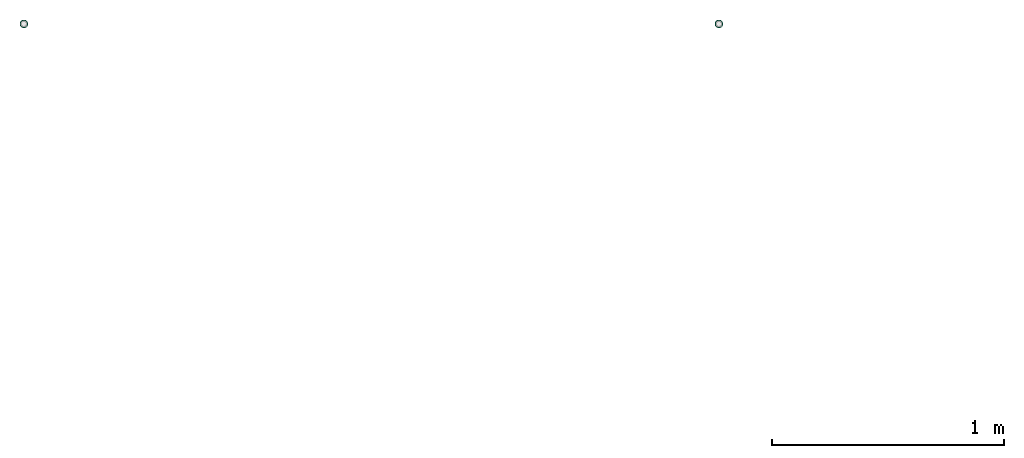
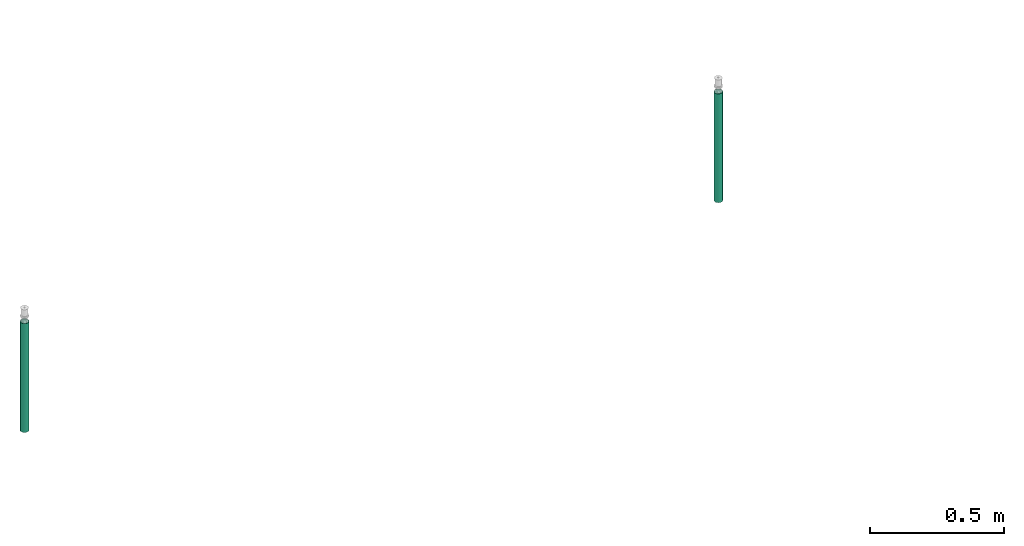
# One storey, part 42 of 44: 2 flow segments.
"""IFC2X3 building model written with IfcOpenShell, lengths in millimetres."""

import ifcopenshell
import ifcopenshell.guid

model = None  # the IFC model being written
_history = None  # IfcOwnerHistory: only IFC2X3 demands one
_inside = {}  # id of a spatial element -> (the spatial element, [elements in it])
_under = {}  # id of a project, library or spatial element -> (it, [spatial elements below it])
_declared = {}  # id of a project -> (the project, [libraries it declares])
_typed = {}  # id of a type object -> (the type object, [elements of that type])
_made_of = {}  # id of a material, layer set ... -> (it, [elements and type objects made of it])


def new_model(schema):
    """Start an empty IFC model of exactly this schema.

    Asked for "IFC4X3", IfcOpenShell would pick the latest addendum, in which some entities
    have other attributes; the version numbers below select the first issue.
    IFC2X3 requires an IfcOwnerHistory on every rooted entity: one is made here for all.
    """
    global model, _history
    if schema == "IFC4X3":
        model = ifcopenshell.file(schema_version=(4, 3, 0, 0))
    else:
        model = ifcopenshell.file(schema=schema)
    _inside.clear()
    _under.clear()
    _declared.clear()
    _typed.clear()
    _made_of.clear()
    _history = None
    if model.schema == "IFC2X3":
        org = make("IfcOrganization", Name="unknown")
        user = make(
            "IfcPersonAndOrganization",
            ThePerson=make("IfcPerson", FamilyName="unknown"),
            TheOrganization=org,
        )
        app = make(
            "IfcApplication",
            ApplicationDeveloper=org,
            Version="unknown",
            ApplicationFullName="unknown",
            ApplicationIdentifier="unknown",
        )
        _history = make(
            "IfcOwnerHistory",
            OwningUser=user,
            OwningApplication=app,
            ChangeAction="ADDED",
            CreationDate=0,
        )
    return model


def make(cls, **values):
    """One entity of the class cls with the attributes given. An attribute that is None is left unset."""
    return model.create_entity(
        cls, **{name: value for name, value in values.items() if value is not None}
    )


def entity(cls, *values):
    """Any entity or typed value of the class cls, its attributes in the order of the schema. None: left unset."""
    e = model.create_entity(cls)
    for i, value in enumerate(values):
        if value is not None:
            e[i] = value
    return e


def rooted(cls, **values):
    """An entity with a GlobalId (a new one), such as an element, a storey or a relation."""
    return make(cls, GlobalId=ifcopenshell.guid.new(), OwnerHistory=_history, **values)


def si_unit(unit_type, name, prefix=None):
    """IfcSIUnit, for example si_unit("LENGTHUNIT", "METRE", prefix="MILLI")."""
    return make("IfcSIUnit", UnitType=unit_type, Prefix=prefix, Name=name)


def converted_unit(unit_type, name, factor, base, dimensions=None, offset=None):
    """IfcConversionBasedUnit, such as the inch: factor (a typed value) times the base unit."""
    return make(
        "IfcConversionBasedUnit"
        if offset is None
        else "IfcConversionBasedUnitWithOffset",
        ConversionOffset=offset,
        Dimensions=None
        if dimensions is None
        else entity("IfcDimensionalExponents", *dimensions),
        UnitType=unit_type,
        Name=name,
        ConversionFactor=make(
            "IfcMeasureWithUnit", ValueComponent=factor, UnitComponent=base
        ),
    )


def derived_unit(unit_type, elements):
    """IfcDerivedUnit: a product of units, each with its exponent."""
    return make(
        "IfcDerivedUnit",
        Elements=[
            make("IfcDerivedUnitElement", Unit=unit, Exponent=power)
            for unit, power in elements
        ],
        UnitType=unit_type,
    )


def assignment(units):
    """IfcUnitAssignment: the units of a project."""
    return None if units is None else make("IfcUnitAssignment", Units=units)


def point(xyz):
    """IfcCartesianPoint."""
    return None if xyz is None else make("IfcCartesianPoint", Coordinates=xyz)


def direction(xyz):
    """IfcDirection."""
    return None if xyz is None else make("IfcDirection", DirectionRatios=xyz)


def frame(location, z_axis=None, x_axis=None):
    """IfcAxis2Placement3D, a coordinate frame: its origin and axes. An axis left out is left unset."""
    return make(
        "IfcAxis2Placement3D",
        Location=point(location),
        Axis=direction(z_axis),
        RefDirection=direction(x_axis),
    )


def place(relative_to, where):
    """IfcLocalPlacement: puts the frame where relative to a parent placement (None: the world)."""
    return make(
        "IfcLocalPlacement", PlacementRelTo=relative_to, RelativePlacement=where
    )


def context(
    kind, dimensions, precision=None, world=None, true_north=None, identifier=None
):
    """IfcGeometricRepresentationContext, for example the 3D "Model" context."""
    return make(
        "IfcGeometricRepresentationContext",
        ContextIdentifier=identifier,
        ContextType=kind,
        CoordinateSpaceDimension=dimensions,
        Precision=precision,
        WorldCoordinateSystem=world,
        TrueNorth=true_north,
    )


def subcontext(parent, identifier, kind, view, scale=None):
    """IfcGeometricRepresentationSubContext, for example "Body" below "Model"."""
    return make(
        "IfcGeometricRepresentationSubContext",
        ContextIdentifier=identifier,
        ContextType=kind,
        ParentContext=parent,
        TargetScale=scale,
        TargetView=view,
    )


def project(units=None, contexts=None):
    """IfcProject with its units and contexts."""
    return rooted(
        "IfcProject",
        Name="project",
        RepresentationContexts=contexts,
        UnitsInContext=assignment(units),
    )


def spatial(cls, under=None, at=None, **own):
    """A site, building, storey or space (cls), placed at a placement, below another one or the project."""
    s = rooted(cls, ObjectPlacement=at, **own)
    if under is not None:
        _under.setdefault(under.id(), (under, []))[1].append(s)
    return s


def faces_of(points, faces, orient=None, outer=None):
    """IfcFace entities. A face is a list of loops; a loop is a list of indices into points, from 0.

    orient and outer hold one flag for each loop. By default every Orientation is true, the
    first loop of a face is its IfcFaceOuterBound and the others are IfcFaceBound.
    """
    made = []
    for i, loops in enumerate(faces):
        bounds = []
        for j, loop in enumerate(loops):
            is_outer = j == 0 if outer is None else outer[i][j]
            bounds.append(
                make(
                    "IfcFaceOuterBound" if is_outer else "IfcFaceBound",
                    Bound=make("IfcPolyLoop", Polygon=[points[k] for k in loop]),
                    Orientation=True if orient is None else orient[i][j],
                )
            )
        made.append(make("IfcFace", Bounds=bounds))
    return made


def faceted_brep(points, faces, orient=None, outer=None, voids=None):
    """IfcFacetedBrep: a solid bounded by flat faces; with voids (closed shells), ...WithVoids."""
    shared = [point(p) for p in points]
    hull = make("IfcClosedShell", CfsFaces=faces_of(shared, faces, orient, outer))
    if voids is None:
        return make("IfcFacetedBrep", Outer=hull)
    return make(
        "IfcFacetedBrepWithVoids",
        Outer=hull,
        Voids=[
            make(cls, CfsFaces=faces_of(shared, fs, o, b)) for cls, fs, o, b in voids
        ],
    )


def shape(context_of_items, identifier, shape_type, items):
    """IfcShapeRepresentation: the items that make up one representation, for example the "Body"."""
    return make(
        "IfcShapeRepresentation",
        ContextOfItems=context_of_items,
        RepresentationIdentifier=identifier,
        RepresentationType=shape_type,
        Items=items,
    )


def made_of(thing, what):
    """Note that an element or type object is made of a material, layer set ...; save() writes the relation."""
    if what is not None:
        _made_of.setdefault(what.id(), (what, []))[1].append(thing)
    return thing


def type_object(cls, material=None, **own):
    """A type object (cls), such as IfcWallType, which elements share."""
    return made_of(rooted(cls, **own), material)


def element(
    cls,
    number,
    at=None,
    inside=None,
    cuts=None,
    type_object=None,
    material=None,
    context=None,
    identifier="Body",
    shape_type=None,
    held_by="IfcProductDefinitionShape",
    body=None,
    shapes=None,
    **own,
):
    """One element of the class cls, such as IfcWall. Its Tag is "e" and its number.

    at: its placement. inside: the storey or other place that contains it. cuts: it is an
    opening in that element (IfcRelVoidsElement). A single representation is given by context,
    identifier, shape_type and body (its items); several are given by shapes. held_by: the class
    of the entity that holds the representations. save() writes the other relations.
    """
    e = rooted(cls, Tag="e%d" % number, ObjectPlacement=at, **own)
    if body is not None:
        shapes = [shape(context, identifier, shape_type, body)]
    if shapes is not None:
        e.Representation = make(held_by, Representations=shapes)
    if inside is not None:
        _inside.setdefault(inside.id(), (inside, []))[1].append(e)
    if cuts is not None:
        rooted(
            "IfcRelVoidsElement", RelatingBuildingElement=cuts, RelatedOpeningElement=e
        )
    if type_object is not None:
        _typed.setdefault(type_object.id(), (type_object, []))[1].append(e)
    return made_of(e, material)


def aggregate(whole, parts):
    """IfcRelAggregates: a whole, such as a stair, and the parts it consists of."""
    return rooted("IfcRelAggregates", RelatingObject=whole, RelatedObjects=parts)


def save(model, path):
    """Write the relations noted so far, then the file.

    IfcRelAggregates (storeys below a building ...), IfcRelContainedInSpatialStructure (elements
    in a storey), IfcRelDefinesByType, IfcRelAssociatesMaterial and IfcRelDeclares: one each for
    every whole, place, type object, material and project.
    """
    for whole, parts in _under.values():
        aggregate(whole, parts)
    for where, things in _inside.values():
        rooted(
            "IfcRelContainedInSpatialStructure",
            RelatedElements=things,
            RelatingStructure=where,
        )
    for kind, things in _typed.values():
        rooted("IfcRelDefinesByType", RelatedObjects=things, RelatingType=kind)
    for what, things in _made_of.values():
        rooted("IfcRelAssociatesMaterial", RelatedObjects=things, RelatingMaterial=what)
    for by, libraries in _declared.values():
        rooted("IfcRelDeclares", RelatingContext=by, RelatedDefinitions=libraries)
    model.write(path)


model = new_model("IFC2X3")

# Units and contexts
model_context = context("Model", 3, precision=0.01, world=frame((0.0, 4.29681676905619e-09, 0.0)), true_north=direction((4.01073788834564e-13, 1.0)))
plan_context = context("Plan", 3, precision=0.01, world=frame((0.0, 4.29681676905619e-09, 0.0)), true_north=direction((4.01073788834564e-13, 1.0)))
body_context = subcontext(model_context, "Body", "Model", "MODEL_VIEW")
ifc_project = project(units=[converted_unit("PLANEANGLEUNIT", "DEGREE", entity("IfcPositiveLengthMeasure", 0.0174532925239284), si_unit("PLANEANGLEUNIT", "RADIAN"), dimensions=[0, 0, 0, 0, 0, 0, 0]), si_unit("AREAUNIT", "SQUARE_METRE"), si_unit("LENGTHUNIT", "METRE", prefix="MILLI"), si_unit("MASSUNIT", "GRAM", prefix="KILO"), si_unit("POWERUNIT", "WATT"), si_unit("PRESSUREUNIT", "PASCAL"), si_unit("FORCEUNIT", "NEWTON", prefix="KILO"), si_unit("ELECTRICVOLTAGEUNIT", "VOLT"), si_unit("ELECTRICCURRENTUNIT", "AMPERE"), si_unit("THERMODYNAMICTEMPERATUREUNIT", "DEGREE_CELSIUS"), si_unit("TIMEUNIT", "SECOND"), si_unit("VOLUMEUNIT", "CUBIC_METRE"), derived_unit("LINEARVELOCITYUNIT", [(si_unit("LENGTHUNIT", "METRE"), 1), (si_unit("TIMEUNIT", "SECOND"), -1)]), derived_unit("VOLUMETRICFLOWRATEUNIT", [(si_unit("VOLUMEUNIT", "CUBIC_METRE"), 1), (si_unit("TIMEUNIT", "SECOND"), -1)]), derived_unit("THERMALTRANSMITTANCEUNIT", [(si_unit("POWERUNIT", "WATT"), 1), (si_unit("THERMODYNAMICTEMPERATUREUNIT", "KELVIN"), -1), (si_unit("AREAUNIT", "SQUARE_METRE"), -1)]), derived_unit("SOUNDPRESSUREUNIT", [(si_unit("PRESSUREUNIT", "PASCAL"), 1)])], contexts=[model_context, plan_context])

# Site, building, storey
site_placement = place(None, frame((0.0, -4.29681676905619e-09, 0.0), z_axis=(0.0, 0.0, 1.0), x_axis=(1.0, 0.0, 0.0)))
site = spatial("IfcSite", under=ifc_project, at=site_placement, CompositionType="ELEMENT")
building_placement = place(site_placement, frame((0.0, 4.29681676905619e-09, 0.0), z_axis=(0.0, 0.0, 1.0), x_axis=(1.0, 0.0, 0.0)))
building = spatial("IfcBuilding", under=site, at=building_placement, Name="mc-building", CompositionType="ELEMENT")
storey_placement = place(building_placement, frame((0.0, 0.0, 207370.0), z_axis=(0.0, 0.0, 1.0), x_axis=(1.0, 0.0, 0.0)))
storey = spatial("IfcBuildingStorey", under=building, at=storey_placement, Name="Nivå E", CompositionType="ELEMENT", Elevation=207370.0)

# Flow segments
pipe_segment_type = type_object("IfcPipeSegmentType", Name="Stålrør normaltykke", PredefinedType="RIGIDSEGMENT")
flow_segment_1_placement = place(storey_placement, frame((521500.0, 459009.83177, 1961.79999999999), z_axis=(1.0, 0.0, 0.0), x_axis=(0.0, 0.0, 1.0)))
element("IfcFlowSegment", 1, at=flow_segment_1_placement, inside=storey, type_object=pipe_segment_type, Name="Stålrør normaltykke", context=body_context, shape_type="Brep", body=[
    faceted_brep([(568.200000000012, 14.6736355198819, -2.58735784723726), (568.200000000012, 14.9, 0.0), (1065.8, 14.9, 0.0), (1065.8, 14.6736355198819, -2.58735784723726), (568.200000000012, 14.00142004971, -5.09610013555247), (1065.8, 14.00142004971, -5.09610013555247), (568.200000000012, 12.9037785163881, -7.45), (1065.8, 12.9037785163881, -7.45000000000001), (568.200000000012, 11.4140622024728, -9.57753538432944), (1065.8, 11.4140622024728, -9.57753538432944), (568.200000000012, 9.57753538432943, -11.4140622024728), (1065.8, 9.57753538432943, -11.4140622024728), (568.200000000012, 7.45, -12.9037785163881), (1065.8, 7.45, -12.9037785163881), (568.200000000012, 5.09610013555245, -14.00142004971), (1065.8, 5.09610013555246, -14.00142004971), (568.200000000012, 2.58735784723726, -14.6736355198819), (1065.8, 2.58735784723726, -14.6736355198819), (568.200000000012, -2.73708559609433e-15, -14.9), (1065.8, -2.73708559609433e-15, -14.9), (568.200000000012, -2.58735784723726, -14.6736355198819), (1065.8, -2.58735784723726, -14.6736355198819), (568.200000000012, -5.09610013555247, -14.00142004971), (1065.8, -5.09610013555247, -14.00142004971), (568.200000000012, -7.45, -12.9037785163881), (1065.8, -7.45000000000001, -12.9037785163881), (568.200000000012, -9.57753538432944, -11.4140622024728), (1065.8, -9.57753538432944, -11.4140622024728), (568.200000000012, -11.4140622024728, -9.57753538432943), (1065.8, -11.4140622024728, -9.57753538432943), (568.200000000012, -12.9037785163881, -7.44999999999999), (1065.8, -12.9037785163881, -7.44999999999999), (568.200000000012, -14.00142004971, -5.09610013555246), (1065.8, -14.00142004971, -5.09610013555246), (568.200000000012, -14.6736355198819, -2.58735784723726), (1065.8, -14.6736355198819, -2.58735784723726), (568.200000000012, -14.9, 1.82472373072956e-15), (1065.8, -14.9, 1.82472373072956e-15), (568.200000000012, -14.6736355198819, 2.58735784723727), (1065.8, -14.6736355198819, 2.58735784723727), (568.200000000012, -14.00142004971, 5.09610013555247), (1065.8, -14.00142004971, 5.09610013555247), (568.200000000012, -12.9037785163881, 7.45), (1065.8, -12.9037785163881, 7.45), (568.200000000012, -11.4140622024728, 9.57753538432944), (1065.8, -11.4140622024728, 9.57753538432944), (568.200000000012, -9.57753538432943, 11.4140622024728), (1065.8, -9.57753538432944, 11.4140622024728), (568.200000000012, -7.45, 12.9037785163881), (1065.8, -7.45, 12.9037785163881), (568.200000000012, -5.09610013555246, 14.00142004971), (1065.8, -5.09610013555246, 14.00142004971), (568.200000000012, -2.58735784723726, 14.6736355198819), (1065.8, -2.58735784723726, 14.6736355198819), (568.200000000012, 9.12361865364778e-16, 14.9), (1065.8, 9.12361865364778e-16, 14.9), (568.200000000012, 2.58735784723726, 14.6736355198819), (1065.8, 2.58735784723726, 14.6736355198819), (568.200000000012, 5.09610013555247, 14.00142004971), (1065.8, 5.09610013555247, 14.00142004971), (568.200000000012, 7.45, 12.9037785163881), (1065.8, 7.45, 12.9037785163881), (568.200000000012, 9.57753538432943, 11.4140622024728), (1065.8, 9.57753538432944, 11.4140622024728), (568.200000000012, 11.4140622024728, 9.57753538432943), (1065.8, 11.4140622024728, 9.57753538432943), (568.200000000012, 12.9037785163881, 7.45), (1065.8, 12.9037785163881, 7.45), (568.200000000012, 14.00142004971, 5.09610013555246), (1065.8, 14.00142004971, 5.09610013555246), (568.200000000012, 14.6736355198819, 2.58735784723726), (1065.8, 14.6736355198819, 2.58735784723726), (568.200000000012, 16.9, 0.0), (568.200000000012, 16.6432510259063, -2.93465420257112), (1065.8, 16.6432510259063, -2.93465420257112), (1065.8, 16.9, 0.0), (568.200000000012, 16.6432510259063, 2.93465420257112), (1065.8, 16.6432510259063, 2.93465420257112), (568.200000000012, 15.8808052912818, 5.7801404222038), (1065.8, 15.8808052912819, 5.7801404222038), (568.200000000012, 14.635829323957, 8.45), (1065.8, 14.635829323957, 8.45), (568.200000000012, 12.9461510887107, 10.8631106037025), (1065.8, 12.9461510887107, 10.8631106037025), (568.200000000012, 10.8631106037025, 12.9461510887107), (1065.8, 10.8631106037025, 12.9461510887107), (568.200000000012, 8.45, 14.635829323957), (1065.8, 8.45, 14.635829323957), (568.200000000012, 5.7801404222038, 15.8808052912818), (1065.8, 5.7801404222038, 15.8808052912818), (568.200000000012, 2.93465420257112, 16.6432510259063), (1065.8, 2.93465420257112, 16.6432510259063), (568.200000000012, 1.03482654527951e-15, 16.9), (1065.8, 1.03482654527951e-15, 16.9), (568.200000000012, -2.93465420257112, 16.6432510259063), (1065.8, -2.93465420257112, 16.6432510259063), (568.200000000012, -5.7801404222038, 15.8808052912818), (1065.8, -5.7801404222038, 15.8808052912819), (568.200000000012, -8.45, 14.635829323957), (1065.8, -8.45, 14.635829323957), (568.200000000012, -10.8631106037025, 12.9461510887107), (1065.8, -10.8631106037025, 12.9461510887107), (568.200000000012, -12.9461510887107, 10.8631106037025), (1065.8, -12.9461510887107, 10.8631106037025), (568.200000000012, -14.635829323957, 8.45), (1065.8, -14.635829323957, 8.45), (568.200000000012, -15.8808052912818, 5.7801404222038), (1065.8, -15.8808052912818, 5.7801404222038), (568.200000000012, -16.6432510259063, 2.93465420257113), (1065.8, -16.6432510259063, 2.93465420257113), (568.200000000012, -16.9, 2.06965309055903e-15), (1065.8, -16.9, 2.06965309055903e-15), (568.200000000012, -16.6432510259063, -2.93465420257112), (1065.8, -16.6432510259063, -2.93465420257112), (568.200000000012, -15.8808052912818, -5.7801404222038), (1065.8, -15.8808052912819, -5.7801404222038), (568.200000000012, -14.635829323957, -8.44999999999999), (1065.8, -14.635829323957, -8.44999999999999), (568.200000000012, -12.9461510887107, -10.8631106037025), (1065.8, -12.9461510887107, -10.8631106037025), (568.200000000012, -10.8631106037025, -12.9461510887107), (1065.8, -10.8631106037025, -12.9461510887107), (568.200000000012, -8.45000000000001, -14.635829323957), (1065.8, -8.45000000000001, -14.635829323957), (568.200000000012, -5.78014042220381, -15.8808052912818), (1065.8, -5.78014042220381, -15.8808052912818), (568.200000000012, -2.93465420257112, -16.6432510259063), (1065.8, -2.93465420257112, -16.6432510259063), (568.200000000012, -3.10447963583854e-15, -16.9), (1065.8, -3.10447963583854e-15, -16.9), (568.200000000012, 2.93465420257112, -16.6432510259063), (1065.8, 2.93465420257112, -16.6432510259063), (568.200000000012, 5.78014042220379, -15.8808052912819), (1065.8, 5.78014042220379, -15.8808052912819), (568.200000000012, 8.45, -14.635829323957), (1065.8, 8.45, -14.635829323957), (568.200000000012, 10.8631106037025, -12.9461510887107), (1065.8, 10.8631106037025, -12.9461510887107), (568.200000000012, 12.9461510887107, -10.8631106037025), (1065.8, 12.9461510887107, -10.8631106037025), (568.200000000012, 14.635829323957, -8.45000000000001), (1065.8, 14.635829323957, -8.45000000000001), (568.200000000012, 15.8808052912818, -5.78014042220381), (1065.8, 15.8808052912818, -5.78014042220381)], [[[0, 1, 2, 3]], [[4, 0, 3, 5]], [[6, 4, 5, 7]], [[8, 6, 7, 9]], [[10, 8, 9, 11]], [[12, 10, 11, 13]], [[14, 12, 13, 15]], [[16, 14, 15, 17]], [[18, 16, 17, 19]], [[20, 18, 19, 21]], [[22, 20, 21, 23]], [[24, 22, 23, 25]], [[26, 24, 25, 27]], [[28, 26, 27, 29]], [[30, 28, 29, 31]], [[32, 30, 31, 33]], [[34, 32, 33, 35]], [[36, 34, 35, 37]], [[38, 36, 37, 39]], [[40, 38, 39, 41]], [[42, 40, 41, 43]], [[44, 42, 43, 45]], [[46, 44, 45, 47]], [[48, 46, 47, 49]], [[50, 48, 49, 51]], [[52, 50, 51, 53]], [[54, 52, 53, 55]], [[56, 54, 55, 57]], [[58, 56, 57, 59]], [[60, 58, 59, 61]], [[62, 60, 61, 63]], [[64, 62, 63, 65]], [[66, 64, 65, 67]], [[68, 66, 67, 69]], [[70, 68, 69, 71]], [[1, 70, 71, 2]], [[72, 73, 74, 75]], [[76, 72, 75, 77]], [[78, 76, 77, 79]], [[80, 78, 79, 81]], [[82, 80, 81, 83]], [[84, 82, 83, 85]], [[86, 84, 85, 87]], [[88, 86, 87, 89]], [[90, 88, 89, 91]], [[92, 90, 91, 93]], [[94, 92, 93, 95]], [[96, 94, 95, 97]], [[98, 96, 97, 99]], [[100, 98, 99, 101]], [[102, 100, 101, 103]], [[104, 102, 103, 105]], [[106, 104, 105, 107]], [[108, 106, 107, 109]], [[110, 108, 109, 111]], [[112, 110, 111, 113]], [[114, 112, 113, 115]], [[116, 114, 115, 117]], [[118, 116, 117, 119]], [[120, 118, 119, 121]], [[122, 120, 121, 123]], [[124, 122, 123, 125]], [[126, 124, 125, 127]], [[128, 126, 127, 129]], [[130, 128, 129, 131]], [[132, 130, 131, 133]], [[134, 132, 133, 135]], [[136, 134, 135, 137]], [[138, 136, 137, 139]], [[140, 138, 139, 141]], [[142, 140, 141, 143]], [[73, 142, 143, 74]], [[75, 74, 143, 141, 139, 137, 135, 133, 131, 129, 127, 125, 123, 121, 119, 117, 115, 113, 111, 109, 107, 105, 103, 101, 99, 97, 95, 93, 91, 89, 87, 85, 83, 81, 79, 77], [2, 71, 69, 67, 65, 63, 61, 59, 57, 55, 53, 51, 49, 47, 45, 43, 41, 39, 37, 35, 33, 31, 29, 27, 25, 23, 21, 19, 17, 15, 13, 11, 9, 7, 5, 3]], [[76, 78, 80, 82, 84, 86, 88, 90, 92, 94, 96, 98, 100, 102, 104, 106, 108, 110, 112, 114, 116, 118, 120, 122, 124, 126, 128, 130, 132, 134, 136, 138, 140, 142, 73, 72], [4, 6, 8, 10, 12, 14, 16, 18, 20, 22, 24, 26, 28, 30, 32, 34, 36, 38, 40, 42, 44, 46, 48, 50, 52, 54, 56, 58, 60, 62, 64, 66, 68, 70, 1, 0]]], orient=[[False], [False], [False], [False], [False], [False], [False], [False], [False], [False], [False], [False], [False], [False], [False], [False], [False], [False], [False], [False], [False], [False], [False], [False], [False], [False], [False], [False], [False], [False], [False], [False], [False], [False], [False], [False], [False], [False], [False], [False], [False], [False], [False], [False], [False], [False], [False], [False], [False], [False], [False], [False], [False], [False], [False], [False], [False], [False], [False], [False], [False], [False], [False], [False], [False], [False], [False], [False], [False], [False], [False], [False], [False, False], [False, False]]),
])
flow_segment_2_placement = place(storey_placement, frame((524500.5875, 459009.83177, 1961.79999999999), z_axis=(0.0, 1.0, 0.0), x_axis=(0.0, 0.0, 1.0)))
element("IfcFlowSegment", 2, at=flow_segment_2_placement, inside=storey, type_object=pipe_segment_type, Name="Stålrør normaltykke", context=body_context, shape_type="Brep", body=[
    faceted_brep([(568.200000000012, 14.6736355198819, -2.58735784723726), (568.200000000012, 14.9, 0.0), (1065.8, 14.9, 0.0), (1065.8, 14.6736355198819, -2.58735784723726), (568.200000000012, 14.00142004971, -5.09610013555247), (1065.8, 14.00142004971, -5.09610013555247), (568.200000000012, 12.9037785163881, -7.45), (1065.8, 12.9037785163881, -7.45000000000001), (568.200000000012, 11.4140622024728, -9.57753538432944), (1065.8, 11.4140622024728, -9.57753538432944), (568.200000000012, 9.57753538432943, -11.4140622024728), (1065.8, 9.57753538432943, -11.4140622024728), (568.200000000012, 7.45, -12.9037785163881), (1065.8, 7.45, -12.9037785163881), (568.200000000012, 5.09610013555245, -14.00142004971), (1065.8, 5.09610013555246, -14.00142004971), (568.200000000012, 2.58735784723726, -14.6736355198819), (1065.8, 2.58735784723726, -14.6736355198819), (568.200000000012, -2.73708559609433e-15, -14.9), (1065.8, -2.73708559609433e-15, -14.9), (568.200000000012, -2.58735784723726, -14.6736355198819), (1065.8, -2.58735784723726, -14.6736355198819), (568.200000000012, -5.09610013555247, -14.00142004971), (1065.8, -5.09610013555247, -14.00142004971), (568.200000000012, -7.45, -12.9037785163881), (1065.8, -7.45000000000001, -12.9037785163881), (568.200000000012, -9.57753538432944, -11.4140622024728), (1065.8, -9.57753538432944, -11.4140622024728), (568.200000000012, -11.4140622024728, -9.57753538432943), (1065.8, -11.4140622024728, -9.57753538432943), (568.200000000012, -12.9037785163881, -7.44999999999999), (1065.8, -12.9037785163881, -7.44999999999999), (568.200000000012, -14.00142004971, -5.09610013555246), (1065.8, -14.00142004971, -5.09610013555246), (568.200000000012, -14.6736355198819, -2.58735784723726), (1065.8, -14.6736355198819, -2.58735784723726), (568.200000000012, -14.9, 1.82472373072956e-15), (1065.8, -14.9, 1.82472373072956e-15), (568.200000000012, -14.6736355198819, 2.58735784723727), (1065.8, -14.6736355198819, 2.58735784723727), (568.200000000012, -14.00142004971, 5.09610013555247), (1065.8, -14.00142004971, 5.09610013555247), (568.200000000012, -12.9037785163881, 7.45), (1065.8, -12.9037785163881, 7.45), (568.200000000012, -11.4140622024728, 9.57753538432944), (1065.8, -11.4140622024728, 9.57753538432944), (568.200000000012, -9.57753538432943, 11.4140622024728), (1065.8, -9.57753538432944, 11.4140622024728), (568.200000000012, -7.45, 12.9037785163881), (1065.8, -7.45, 12.9037785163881), (568.200000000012, -5.09610013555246, 14.00142004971), (1065.8, -5.09610013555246, 14.00142004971), (568.200000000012, -2.58735784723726, 14.6736355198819), (1065.8, -2.58735784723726, 14.6736355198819), (568.200000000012, 9.12361865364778e-16, 14.9), (1065.8, 9.12361865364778e-16, 14.9), (568.200000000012, 2.58735784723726, 14.6736355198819), (1065.8, 2.58735784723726, 14.6736355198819), (568.200000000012, 5.09610013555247, 14.00142004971), (1065.8, 5.09610013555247, 14.00142004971), (568.200000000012, 7.45, 12.9037785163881), (1065.8, 7.45, 12.9037785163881), (568.200000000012, 9.57753538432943, 11.4140622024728), (1065.8, 9.57753538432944, 11.4140622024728), (568.200000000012, 11.4140622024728, 9.57753538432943), (1065.8, 11.4140622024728, 9.57753538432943), (568.200000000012, 12.9037785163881, 7.45), (1065.8, 12.9037785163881, 7.45), (568.200000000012, 14.00142004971, 5.09610013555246), (1065.8, 14.00142004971, 5.09610013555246), (568.200000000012, 14.6736355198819, 2.58735784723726), (1065.8, 14.6736355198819, 2.58735784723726), (568.200000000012, 16.9, 0.0), (568.200000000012, 16.6432510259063, -2.93465420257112), (1065.8, 16.6432510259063, -2.93465420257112), (1065.8, 16.9, 0.0), (568.200000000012, 16.6432510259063, 2.93465420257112), (1065.8, 16.6432510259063, 2.93465420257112), (568.200000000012, 15.8808052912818, 5.7801404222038), (1065.8, 15.8808052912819, 5.7801404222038), (568.200000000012, 14.635829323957, 8.45), (1065.8, 14.635829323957, 8.45), (568.200000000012, 12.9461510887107, 10.8631106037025), (1065.8, 12.9461510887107, 10.8631106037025), (568.200000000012, 10.8631106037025, 12.9461510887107), (1065.8, 10.8631106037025, 12.9461510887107), (568.200000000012, 8.45, 14.635829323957), (1065.8, 8.45, 14.635829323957), (568.200000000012, 5.7801404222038, 15.8808052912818), (1065.8, 5.7801404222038, 15.8808052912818), (568.200000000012, 2.93465420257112, 16.6432510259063), (1065.8, 2.93465420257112, 16.6432510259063), (568.200000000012, 1.03482654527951e-15, 16.9), (1065.8, 1.03482654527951e-15, 16.9), (568.200000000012, -2.93465420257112, 16.6432510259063), (1065.8, -2.93465420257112, 16.6432510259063), (568.200000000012, -5.7801404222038, 15.8808052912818), (1065.8, -5.7801404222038, 15.8808052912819), (568.200000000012, -8.45, 14.635829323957), (1065.8, -8.45, 14.635829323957), (568.200000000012, -10.8631106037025, 12.9461510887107), (1065.8, -10.8631106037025, 12.9461510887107), (568.200000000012, -12.9461510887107, 10.8631106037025), (1065.8, -12.9461510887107, 10.8631106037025), (568.200000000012, -14.635829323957, 8.45), (1065.8, -14.635829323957, 8.45), (568.200000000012, -15.8808052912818, 5.7801404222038), (1065.8, -15.8808052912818, 5.7801404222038), (568.200000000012, -16.6432510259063, 2.93465420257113), (1065.8, -16.6432510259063, 2.93465420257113), (568.200000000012, -16.9, 2.06965309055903e-15), (1065.8, -16.9, 2.06965309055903e-15), (568.200000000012, -16.6432510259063, -2.93465420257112), (1065.8, -16.6432510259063, -2.93465420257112), (568.200000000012, -15.8808052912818, -5.7801404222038), (1065.8, -15.8808052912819, -5.7801404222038), (568.200000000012, -14.635829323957, -8.44999999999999), (1065.8, -14.635829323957, -8.44999999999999), (568.200000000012, -12.9461510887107, -10.8631106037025), (1065.8, -12.9461510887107, -10.8631106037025), (568.200000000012, -10.8631106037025, -12.9461510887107), (1065.8, -10.8631106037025, -12.9461510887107), (568.200000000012, -8.45000000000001, -14.635829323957), (1065.8, -8.45000000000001, -14.635829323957), (568.200000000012, -5.78014042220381, -15.8808052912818), (1065.8, -5.78014042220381, -15.8808052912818), (568.200000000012, -2.93465420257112, -16.6432510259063), (1065.8, -2.93465420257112, -16.6432510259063), (568.200000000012, -3.10447963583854e-15, -16.9), (1065.8, -3.10447963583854e-15, -16.9), (568.200000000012, 2.93465420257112, -16.6432510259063), (1065.8, 2.93465420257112, -16.6432510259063), (568.200000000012, 5.78014042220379, -15.8808052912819), (1065.8, 5.78014042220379, -15.8808052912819), (568.200000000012, 8.45, -14.635829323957), (1065.8, 8.45, -14.635829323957), (568.200000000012, 10.8631106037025, -12.9461510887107), (1065.8, 10.8631106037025, -12.9461510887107), (568.200000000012, 12.9461510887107, -10.8631106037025), (1065.8, 12.9461510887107, -10.8631106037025), (568.200000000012, 14.635829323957, -8.45000000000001), (1065.8, 14.635829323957, -8.45000000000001), (568.200000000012, 15.8808052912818, -5.78014042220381), (1065.8, 15.8808052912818, -5.78014042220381)], [[[0, 1, 2, 3]], [[4, 0, 3, 5]], [[6, 4, 5, 7]], [[8, 6, 7, 9]], [[10, 8, 9, 11]], [[12, 10, 11, 13]], [[14, 12, 13, 15]], [[16, 14, 15, 17]], [[18, 16, 17, 19]], [[20, 18, 19, 21]], [[22, 20, 21, 23]], [[24, 22, 23, 25]], [[26, 24, 25, 27]], [[28, 26, 27, 29]], [[30, 28, 29, 31]], [[32, 30, 31, 33]], [[34, 32, 33, 35]], [[36, 34, 35, 37]], [[38, 36, 37, 39]], [[40, 38, 39, 41]], [[42, 40, 41, 43]], [[44, 42, 43, 45]], [[46, 44, 45, 47]], [[48, 46, 47, 49]], [[50, 48, 49, 51]], [[52, 50, 51, 53]], [[54, 52, 53, 55]], [[56, 54, 55, 57]], [[58, 56, 57, 59]], [[60, 58, 59, 61]], [[62, 60, 61, 63]], [[64, 62, 63, 65]], [[66, 64, 65, 67]], [[68, 66, 67, 69]], [[70, 68, 69, 71]], [[1, 70, 71, 2]], [[72, 73, 74, 75]], [[76, 72, 75, 77]], [[78, 76, 77, 79]], [[80, 78, 79, 81]], [[82, 80, 81, 83]], [[84, 82, 83, 85]], [[86, 84, 85, 87]], [[88, 86, 87, 89]], [[90, 88, 89, 91]], [[92, 90, 91, 93]], [[94, 92, 93, 95]], [[96, 94, 95, 97]], [[98, 96, 97, 99]], [[100, 98, 99, 101]], [[102, 100, 101, 103]], [[104, 102, 103, 105]], [[106, 104, 105, 107]], [[108, 106, 107, 109]], [[110, 108, 109, 111]], [[112, 110, 111, 113]], [[114, 112, 113, 115]], [[116, 114, 115, 117]], [[118, 116, 117, 119]], [[120, 118, 119, 121]], [[122, 120, 121, 123]], [[124, 122, 123, 125]], [[126, 124, 125, 127]], [[128, 126, 127, 129]], [[130, 128, 129, 131]], [[132, 130, 131, 133]], [[134, 132, 133, 135]], [[136, 134, 135, 137]], [[138, 136, 137, 139]], [[140, 138, 139, 141]], [[142, 140, 141, 143]], [[73, 142, 143, 74]], [[75, 74, 143, 141, 139, 137, 135, 133, 131, 129, 127, 125, 123, 121, 119, 117, 115, 113, 111, 109, 107, 105, 103, 101, 99, 97, 95, 93, 91, 89, 87, 85, 83, 81, 79, 77], [2, 71, 69, 67, 65, 63, 61, 59, 57, 55, 53, 51, 49, 47, 45, 43, 41, 39, 37, 35, 33, 31, 29, 27, 25, 23, 21, 19, 17, 15, 13, 11, 9, 7, 5, 3]], [[76, 78, 80, 82, 84, 86, 88, 90, 92, 94, 96, 98, 100, 102, 104, 106, 108, 110, 112, 114, 116, 118, 120, 122, 124, 126, 128, 130, 132, 134, 136, 138, 140, 142, 73, 72], [4, 6, 8, 10, 12, 14, 16, 18, 20, 22, 24, 26, 28, 30, 32, 34, 36, 38, 40, 42, 44, 46, 48, 50, 52, 54, 56, 58, 60, 62, 64, 66, 68, 70, 1, 0]]], orient=[[False], [False], [False], [False], [False], [False], [False], [False], [False], [False], [False], [False], [False], [False], [False], [False], [False], [False], [False], [False], [False], [False], [False], [False], [False], [False], [False], [False], [False], [False], [False], [False], [False], [False], [False], [False], [False], [False], [False], [False], [False], [False], [False], [False], [False], [False], [False], [False], [False], [False], [False], [False], [False], [False], [False], [False], [False], [False], [False], [False], [False], [False], [False], [False], [False], [False], [False], [False], [False], [False], [False], [False], [False, False], [False, False]]),
])

save(model, "model.ifc")
